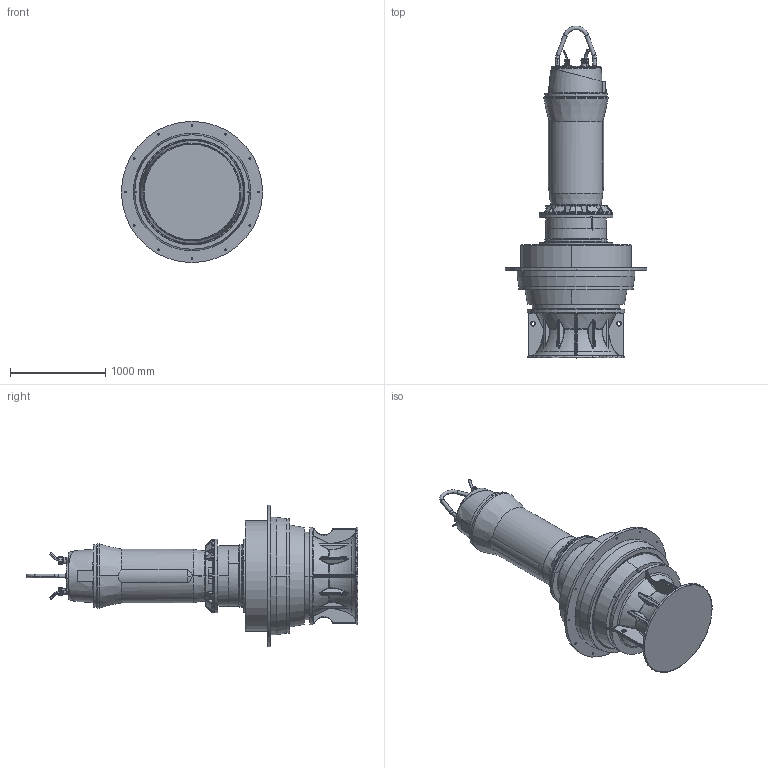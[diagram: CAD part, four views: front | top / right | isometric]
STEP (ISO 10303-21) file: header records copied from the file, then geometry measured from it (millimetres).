
FILE_DESCRIPTION (( 'STEP AP214' ), '1' );
FILE_NAME ('PE7_AFLX1203G3_FU_A.STEP', '2017-05-11T07:18:16', ( '' ), ( '' ), 'SwSTEP 2.0', 'SolidWorks 2017', '' );
FILE_SCHEMA (( 'AUTOMOTIVE_DESIGN' ));
Length unit declared in the file: millimetre
Products named in the file (1): PE7_AFLX1203G3_FU_A
Bounding box: 1480 x 3480 x 1480 mm (x, y, z)
Volume: 1467621619.4 mm3; surface area: 14650355.2 mm2
Topology: 4 solids, 29 shells, 3013 faces, 7246 edges, 4161 vertices
Faces by surface type: bspline 894, plane 690, cylinder 610, torus 383, cone 317, sphere 119
Entity records: 166506 total; most frequent: CARTESIAN_POINT 70778, ORIENTED_EDGE 14068, DIRECTION 11749, EDGE_CURVE 7034, AXIS2_PLACEMENT_3D 4861, VERTEX_POINT 4160, EDGE_LOOP 3182, UNCERTAINTY_MEASURE_WITH_UNIT 3019
